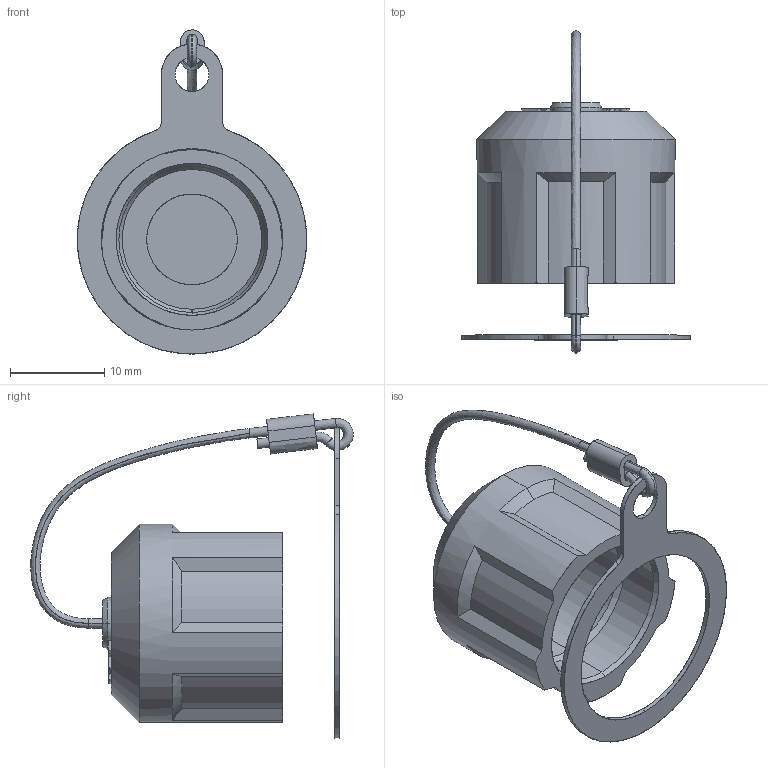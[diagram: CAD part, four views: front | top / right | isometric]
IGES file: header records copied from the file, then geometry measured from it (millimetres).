
Start section: SolidWorks IGES file using analytic representation for surfaces
Global section: file name: C:\Users\JGC\Desktop\B800-EMC1.IGS; native system: SolidWorks 2014; preprocessor: SolidWorks 2014; author: jgc; date: 160622.130649; units: millimetre
Bounding box: 24.3 x 34.15 x 34.33 mm (x, y, z)
Surface area: 3130.7 mm2 (no closed solid volume)
Topology: 0 solids, 0 shells, 224 faces, 2306 edges, 2306 vertices
Faces by surface type: bspline 162, revolution 62
